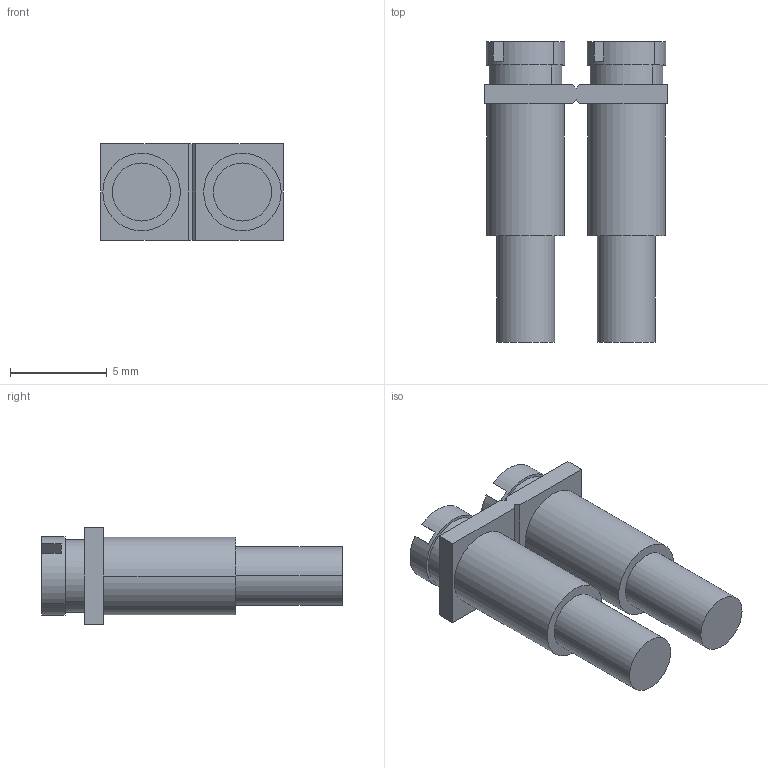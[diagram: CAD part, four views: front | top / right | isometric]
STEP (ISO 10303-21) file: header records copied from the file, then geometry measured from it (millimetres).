
FILE_DESCRIPTION( ('This file contains a STEP AP42 implementation' ,'as created by ZW3D STEP Interface translator.') ,'2;1' );
FILE_NAME( 'FBRIN_2_5.stp' ,'23 729.133441', (''), ('ZWCAD Software Co.'), 'Version 1.0', 'ZW3D to STEP translator', '' );
FILE_SCHEMA(('AUTOMOTIVE_DESIGN { 1 0 10303 214 1 1 1 1 }'));
Length unit declared in the file: millimetre
Products named in the file (2): 0; FBRN_10_5-select
Bounding box: 9.4 x 15.5 x 5 mm (x, y, z)
Volume: 342.6 mm3; surface area: 473.5 mm2
Topology: 1 solids, 1 shells, 44 faces, 102 edges, 68 vertices
Faces by surface type: plane 28, cylinder 16
Entity records: 1340 total; most frequent: DIRECTION 232, CARTESIAN_POINT 215, ORIENTED_EDGE 204, EDGE_CURVE 102, AXIS2_PLACEMENT_3D 85, VERTEX_POINT 68, VECTOR 62, LINE 62
